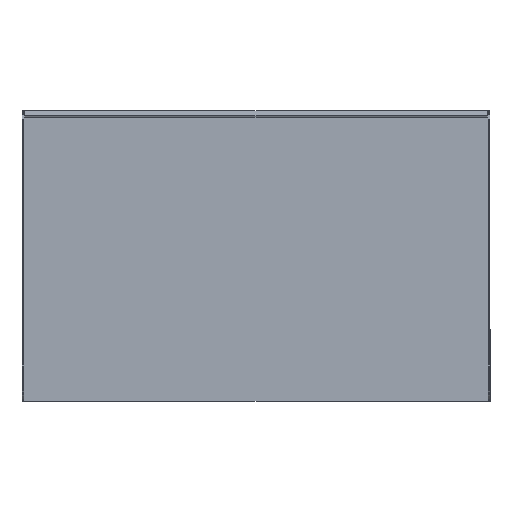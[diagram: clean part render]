
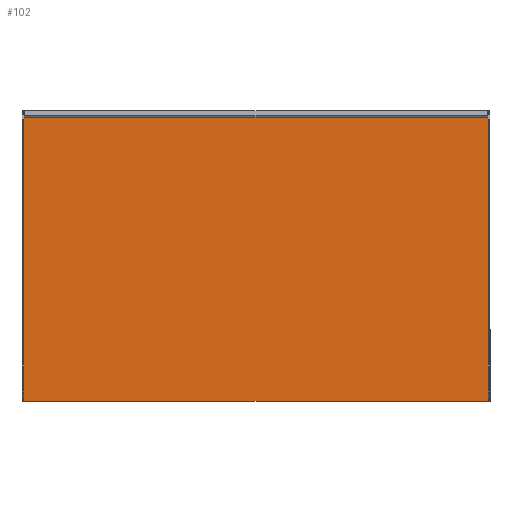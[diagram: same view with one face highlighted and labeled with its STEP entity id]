
A CAD part, front view. The second image highlights one B-rep face of the part: STEP entity #102.
In plain terms, the highlighted planar face has unit normal (0, -1, 0).
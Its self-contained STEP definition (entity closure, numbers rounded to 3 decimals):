
#54 = LINE ( 'NONE', #607, #283 ) ;
#56 = AXIS2_PLACEMENT_3D ( 'NONE', #663, #174, #690 ) ;
#74 = CARTESIAN_POINT ( 'NONE',  ( -247., 0., -397. ) ) ;
#102 = ADVANCED_FACE ( 'NONE', ( #438 ), #1343, .T. ) ;
#163 = VERTEX_POINT ( 'NONE', #728 ) ;
#174 = DIRECTION ( 'NONE',  ( 0., -1., 0. ) ) ;
#238 = ORIENTED_EDGE ( 'NONE', *, *, #1174, .F. ) ;
#254 = LINE ( 'NONE', #370, #613 ) ;
#283 = VECTOR ( 'NONE', #1536, 1000. ) ;
#297 = CARTESIAN_POINT ( 'NONE',  ( 247., 0., 397. ) ) ;
#370 = CARTESIAN_POINT ( 'NONE',  ( 247., 0., 397. ) ) ;
#378 = DIRECTION ( 'NONE',  ( 0., 0., -1. ) ) ;
#382 = VECTOR ( 'NONE', #677, 1000. ) ;
#402 = LINE ( 'NONE', #922, #451 ) ;
#438 = FACE_OUTER_BOUND ( 'NONE', #1337, .T. ) ;
#451 = VECTOR ( 'NONE', #1336, 1000. ) ;
#599 = ORIENTED_EDGE ( 'NONE', *, *, #855, .F. ) ;
#607 = CARTESIAN_POINT ( 'NONE',  ( -247., 0., 397. ) ) ;
#613 = VECTOR ( 'NONE', #378, 1000. ) ;
#663 = CARTESIAN_POINT ( 'NONE',  ( 0., 0., 0. ) ) ;
#677 = DIRECTION ( 'NONE',  ( -1., 0., 0. ) ) ;
#690 = DIRECTION ( 'NONE',  ( 0., 0., -1. ) ) ;
#695 = LINE ( 'NONE', #1190, #382 ) ;
#728 = CARTESIAN_POINT ( 'NONE',  ( 247., 0., -397. ) ) ;
#818 = VERTEX_POINT ( 'NONE', #74 ) ;
#838 = VERTEX_POINT ( 'NONE', #297 ) ;
#855 = EDGE_CURVE ( 'NONE', #163, #818, #695, .T. ) ;
#922 = CARTESIAN_POINT ( 'NONE',  ( -247., 0., 397. ) ) ;
#1134 = EDGE_CURVE ( 'NONE', #1565, #838, #54, .T. ) ;
#1174 = EDGE_CURVE ( 'NONE', #818, #1565, #402, .T. ) ;
#1190 = CARTESIAN_POINT ( 'NONE',  ( -247., 0., -397. ) ) ;
#1336 = DIRECTION ( 'NONE',  ( 0., 0., 1. ) ) ;
#1337 = EDGE_LOOP ( 'NONE', ( #1525, #1588, #238, #599 ) ) ;
#1343 = PLANE ( 'NONE',  #56 ) ;
#1525 = ORIENTED_EDGE ( 'NONE', *, *, #1634, .F. ) ;
#1536 = DIRECTION ( 'NONE',  ( 1., 0., 0. ) ) ;
#1556 = CARTESIAN_POINT ( 'NONE',  ( -247., 0., 397. ) ) ;
#1565 = VERTEX_POINT ( 'NONE', #1556 ) ;
#1588 = ORIENTED_EDGE ( 'NONE', *, *, #1134, .F. ) ;
#1634 = EDGE_CURVE ( 'NONE', #838, #163, #254, .T. ) ;
